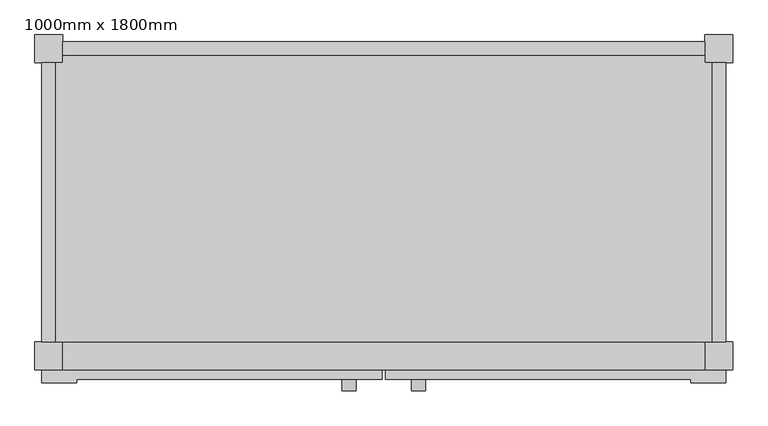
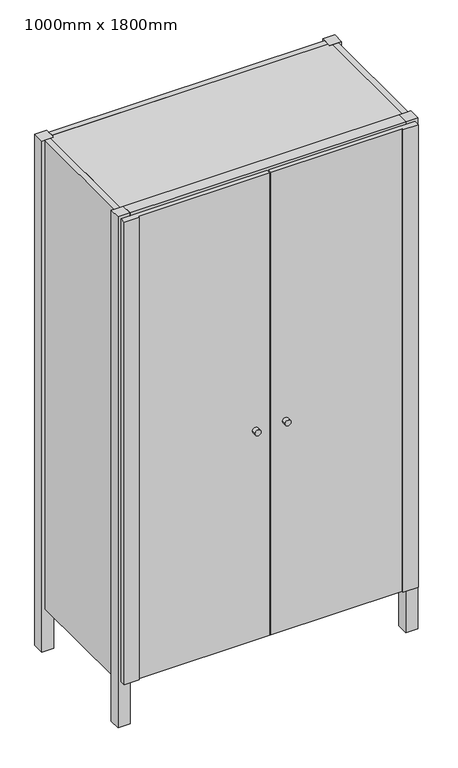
"""IFC4 building model written with IfcOpenShell, lengths in millimetres: furniture geometry, Armoire - 2 portes battantes : 1000mm x 1800mm."""

from ifc_helpers import new_model, si_unit, point, frame, frame_2d, origin, origin_with_axes, place, context, project, spatial, polyline, circle_curve, trimmed, segment, composite_curve, outline, extrude, source, transform, mapped, element, save


def furniture_1000mm_x_1800mm_db1fa969(model_context):
    return source(origin(), model_context, "Body", "SweptSolid", [
        extrude(outline(polyline([(-370.0, -165.0), (-370.0, 235.0), (-360.0, 235.0), (-360.0, 245.0), (560.0, 245.0), (560.0, 235.0), (570.0, 235.0), (570.0, -165.0), (-370.0, -165.0)])), frame((0.0, 0.0, 150.0), z_axis=(0.0, 0.0, 1.0), x_axis=(1.0, 0.0, 0.0)), (0.0, 0.0, 1.0), 19.0),
        extrude(outline(polyline([(-370.0, -165.0), (-370.0, 235.0), (-360.0, 235.0), (-360.0, 245.0), (560.0, 245.0), (560.0, 235.0), (570.0, 235.0), (570.0, -165.0), (-370.0, -165.0)])), frame((0.0, 0.0, 1781.0), z_axis=(0.0, 0.0, 1.0), x_axis=(1.0, 0.0, 0.0)), (0.0, 0.0, 1.0), 19.0),
        extrude(outline(polyline([(560.0, 245.0), (-360.0, 245.0), (-360.0, 265.0), (560.0, 265.0), (560.0, 245.0)])), frame((0.0, 0.0, 150.0), z_axis=(0.0, 0.0, 1.0), x_axis=(1.0, 0.0, 0.0)), (0.0, 0.0, 1.0), 1650.0),
        extrude(outline(polyline([(-390.0, -205.0), (97.5, -205.0), (97.5, -219.0), (-340.0, -219.0), (-340.0, -224.0), (-390.0, -224.0), (-390.0, -205.0)])), frame((0.0, 0.0, 160.0), z_axis=(0.0, 0.0, 1.0), x_axis=(1.0, 0.0, 0.0)), (0.0, 0.0, 1.0), 1630.0),
        extrude(outline(polyline([(102.5, -205.0), (590.0, -205.0), (590.0, -224.0), (540.0, -224.0), (540.0, -219.0), (102.5, -219.0), (102.5, -205.0)])), frame((0.0, 0.0, 160.0), z_axis=(0.0, 0.0, 1.0), x_axis=(1.0, 0.0, 0.0)), (0.0, 0.0, 1.0), 1630.0),
        extrude(outline(polyline([(560.0, -165.0), (560.0, -205.0), (-360.0, -205.0), (-360.0, -165.0), (560.0, -165.0)])), frame((0.0, 0.0, 1770.0), z_axis=(0.0, 0.0, 1.0), x_axis=(1.0, 0.0, 0.0)), (0.0, 0.0, 1.0), 30.0),
        extrude(outline(polyline([(560.0, -165.0), (560.0, -205.0), (-360.0, -205.0), (-360.0, -165.0), (560.0, -165.0)])), frame((0.0, 0.0, 150.0), z_axis=(0.0, 0.0, 1.0), x_axis=(1.0, 0.0, 0.0)), (0.0, 0.0, 1.0), 30.0),
        extrude(outline(polyline([(-370.0, -165.0), (-390.0, -165.0), (-390.0, 235.0), (-370.0, 235.0), (-370.0, -165.0)])), frame((0.0, 0.0, 150.0), z_axis=(0.0, 0.0, 1.0), x_axis=(1.0, 0.0, 0.0)), (0.0, 0.0, 1.0), 1650.0),
        extrude(outline(polyline([(590.0, -165.0), (570.0, -165.0), (570.0, 235.0), (590.0, 235.0), (590.0, -165.0)])), frame((0.0, 0.0, 150.0), z_axis=(0.0, 0.0, 1.0), x_axis=(1.0, 0.0, 0.0)), (0.0, 0.0, 1.0), 1650.0),
        extrude(outline(polyline([(-360.0, -205.0), (-400.0, -205.0), (-400.0, -165.0), (-360.0, -165.0), (-360.0, -205.0)])), origin_with_axes(), (0.0, 0.0, 1.0), 1800.0),
        extrude(outline(polyline([(-360.0, 275.0), (-360.0, 235.0), (-400.0, 235.0), (-400.0, 275.0), (-360.0, 275.0)])), origin_with_axes(), (0.0, 0.0, 1.0), 1800.0),
        extrude(outline(polyline([(600.0, -205.0), (560.0, -205.0), (560.0, -165.0), (600.0, -165.0), (600.0, -205.0)])), origin_with_axes(), (0.0, 0.0, 1.0), 1800.0),
        extrude(outline(polyline([(600.0, 235.0), (560.0, 235.0), (560.0, 275.0), (600.0, 275.0), (600.0, 235.0)])), origin_with_axes(), (0.0, 0.0, 1.0), 1800.0),
        extrude(outline(composite_curve([segment(trimmed(circle_curve(frame_2d((900.0, 50.0)), 10.0), [point((900.0, 40.0))], [point((900.0, 60.0))], False, "CARTESIAN"), True, "CONTINUOUS"), segment(trimmed(circle_curve(frame_2d((900.0, 50.0)), 10.0), [point((900.0, 60.0))], [point((900.0, 40.0))], False, "CARTESIAN"), True, "CONTINUOUS")], self_intersect=False)), frame((0.0, -235.0, 0.0), z_axis=(0.0, 1.0, 0.0), x_axis=(0.0, 0.0, 1.0)), (0.0, 0.0, 1.0), 16.0),
        extrude(outline(composite_curve([segment(trimmed(circle_curve(frame_2d((900.0, 150.0)), 10.0), [point((900.0, 140.0))], [point((900.0, 160.0))], False, "CARTESIAN"), True, "CONTINUOUS"), segment(trimmed(circle_curve(frame_2d((900.0, 150.0)), 10.0), [point((900.0, 160.0))], [point((900.0, 140.0))], False, "CARTESIAN"), True, "CONTINUOUS")], self_intersect=False)), frame((0.0, -235.0, 0.0), z_axis=(0.0, 1.0, 0.0), x_axis=(0.0, 0.0, 1.0)), (0.0, 0.0, 1.0), 16.0),
    ])


if __name__ == "__main__":
    model = new_model("IFC4")
    model_context = context("Model", 3, world=origin())
    ifc_project = project(units=[si_unit("LENGTHUNIT", "METRE", prefix="MILLI")], contexts=[model_context])
    site = spatial("IfcSite", under=ifc_project)
    building = spatial("IfcBuilding", under=site)
    placement = place(None, origin())
    furniture_1000mm_x_1800mm_shape = furniture_1000mm_x_1800mm_db1fa969(model_context)
    element("IfcFurniture", 1, ObjectType="Armoire - 2 portes battantes : 1000mm x 1800mm", at=placement, inside=building, context=model_context, shape_type="MappedRepresentation", body=[
        mapped(furniture_1000mm_x_1800mm_shape, transform((0.0, 0.0, 0.0), x_axis=(1.0, 0.0, 0.0), y_axis=(0.0, 1.0, 0.0), z_axis=(0.0, 0.0, 1.0))),
    ])
    save(model, "model.ifc")
